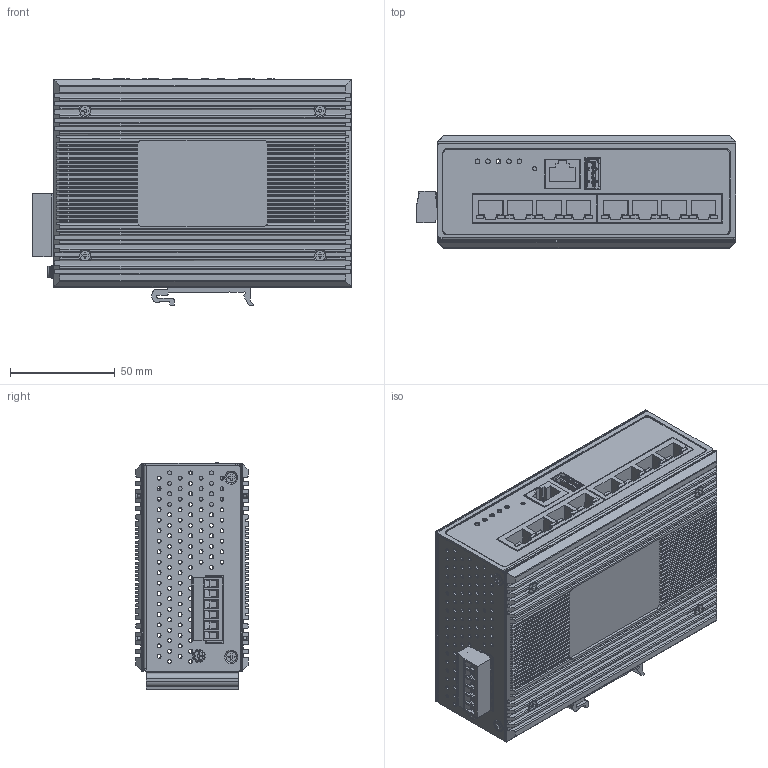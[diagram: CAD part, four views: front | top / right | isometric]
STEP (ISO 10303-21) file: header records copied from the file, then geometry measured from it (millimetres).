
FILE_DESCRIPTION((''),'2;1');
FILE_NAME('ET5-0800_ASM','2020-08-20T',('ASUS'),(''),'PRO/ENGINEER BY PARAMETRIC TECHNOLOGY CORPORATION, 2009440','PRO/ENGINEER BY PARAMETRIC TECHNOLOGY CORPORATION, 2009440','');
FILE_SCHEMA(('CONFIG_CONTROL_DESIGN'));
Products named in the file (17): PRT0001; PRT0002; PRT0003; ASM0003_ASM; PRT0004; PRT0005; PRT0006; ASM0004_ASM; PRT0007; PRT0008; PRT0009; PRT0010; PRT0011; PRT0012; PRT0013; ASM0002_ASM; ET5-0800_ASM
Assembly tree (34 placements, depth 4):
  ET5-0800_ASM
    ASM0002_ASM
      PRT0001
      ASM0003_ASM
        PRT0002  x2
        PRT0003
      PRT0004
      ASM0004_ASM
        PRT0005
        PRT0006
      PRT0007  x18
      PRT0008
      PRT0009
      PRT0010
      PRT0011
      PRT0012
      PRT0013
Bounding box: 152.1 x 53.8 x 108.29 mm (x, y, z)
Volume: 159933.5 mm3; surface area: 196607.4 mm2
Topology: 31 solids, 31 shells, 3654 faces, 9985 edges, 6495 vertices
Faces by surface type: plane 1920, cylinder 1498, cone 130, torus 74, sphere 30, bspline 2
Entity records: 105199 total; most frequent: CARTESIAN_POINT 23555, ORIENTED_EDGE 17002, DIRECTION 16796, EDGE_CURVE 8501, AXIS2_PLACEMENT_3D 5732, VERTEX_POINT 5537, VECTOR 5332, LINE 5332
